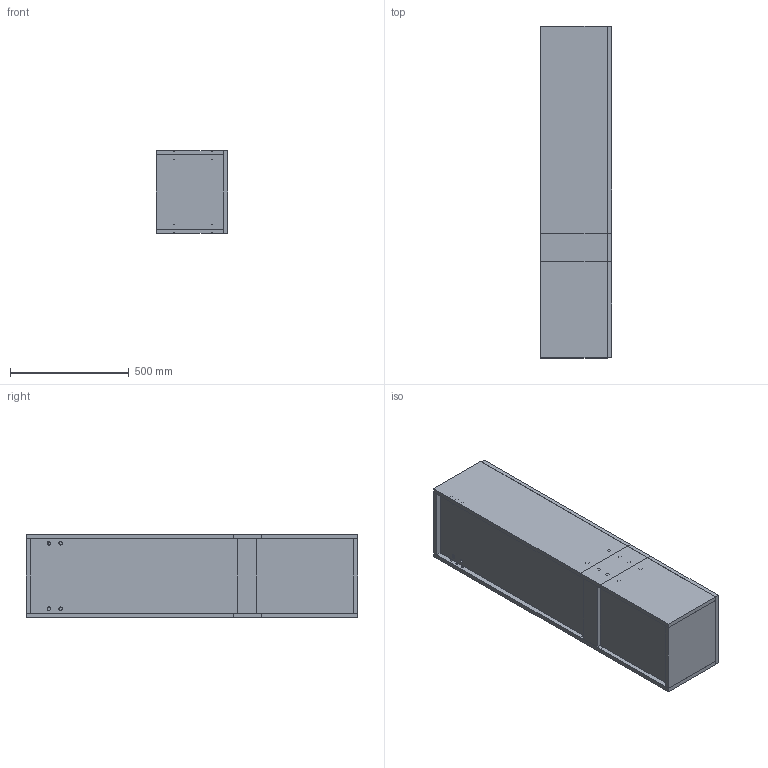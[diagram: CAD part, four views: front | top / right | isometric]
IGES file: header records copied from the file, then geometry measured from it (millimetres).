
Global section: file name: 3D Dosyası,; native system: Autodesk Inventor 2024; preprocessor: unknown; author: pc19; date: 20240624.184730; units: millimetre
Bounding box: 300 x 1400 x 350 mm (x, y, z)
Volume: 31579595.8 mm3; surface area: 4944642.1 mm2
Topology: 57 solids, 57 shells, 2498 faces, 6587 edges, 4378 vertices
Faces by surface type: bspline 2498
